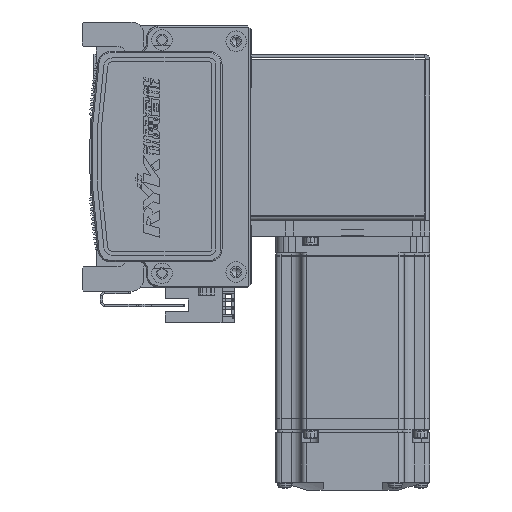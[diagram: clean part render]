
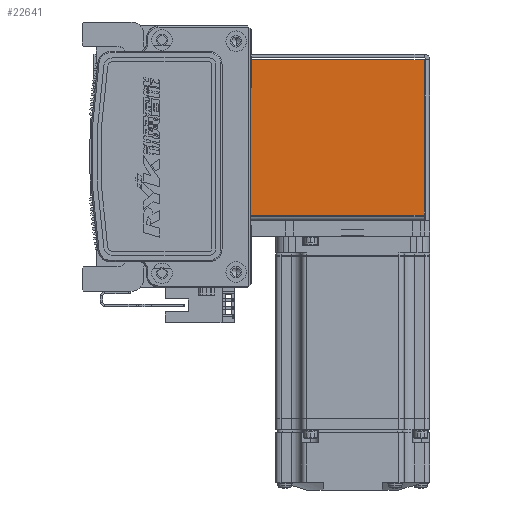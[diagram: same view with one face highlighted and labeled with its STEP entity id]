
A CAD part, left-side view. The second image highlights one B-rep face of the part: STEP entity #22641.
In plain terms, the highlighted planar face has unit normal (-1, 0, 0) as drawn and (0, 0, -1) by its records, which use the part's own axes.
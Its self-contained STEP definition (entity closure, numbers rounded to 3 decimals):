
#1448 = CARTESIAN_POINT ( 'NONE',  ( 0., 0., -35. ) ) ;
#5078 = CARTESIAN_POINT ( 'NONE',  ( 0., 72.5, -35. ) ) ;
#6920 = DIRECTION ( 'NONE',  ( 0., 0., 1. ) ) ;
#8433 = CARTESIAN_POINT ( 'NONE',  ( -30.293, 0., -35. ) ) ;
#8895 = DIRECTION ( 'NONE',  ( 1., 0., 0. ) ) ;
#9711 = DIRECTION ( 'NONE',  ( 1., 0., 0. ) ) ;
#10413 = LINE ( 'NONE', #5078, #52270 ) ;
#10444 = VECTOR ( 'NONE', #19433, 1000. ) ;
#10692 = VECTOR ( 'NONE', #38022, 1000. ) ;
#11416 = ORIENTED_EDGE ( 'NONE', *, *, #50566, .T. ) ;
#13501 = ORIENTED_EDGE ( 'NONE', *, *, #29049, .F. ) ;
#13873 = VECTOR ( 'NONE', #9711, 1000. ) ;
#16053 = CARTESIAN_POINT ( 'NONE',  ( 30.263, 72.5, -35. ) ) ;
#17488 = FACE_OUTER_BOUND ( 'NONE', #22965, .T. ) ;
#19433 = DIRECTION ( 'NONE',  ( 0., 1., 0. ) ) ;
#22641 = ADVANCED_FACE ( 'NONE', ( #17488 ), #60917, .F. ) ;
#22965 = EDGE_LOOP ( 'NONE', ( #34181, #13501, #23643, #11416 ) ) ;
#23643 = ORIENTED_EDGE ( 'NONE', *, *, #24338, .T. ) ;
#24338 = EDGE_CURVE ( 'NONE', #58252, #33881, #24977, .T. ) ;
#24977 = LINE ( 'NONE', #8433, #10444 ) ;
#28450 = LINE ( 'NONE', #47182, #13873 ) ;
#29049 = EDGE_CURVE ( 'NONE', #58252, #60646, #28450, .T. ) ;
#33881 = VERTEX_POINT ( 'NONE', #64863 ) ;
#34181 = ORIENTED_EDGE ( 'NONE', *, *, #42106, .T. ) ;
#35037 = CARTESIAN_POINT ( 'NONE',  ( 30.263, 72.5, -35. ) ) ;
#38022 = DIRECTION ( 'NONE',  ( 0., -1., 0. ) ) ;
#42106 = EDGE_CURVE ( 'NONE', #59728, #60646, #57610, .T. ) ;
#47182 = CARTESIAN_POINT ( 'NONE',  ( 32.5, 0.737, -35. ) ) ;
#49602 = CARTESIAN_POINT ( 'NONE',  ( -30.293, 0.737, -35. ) ) ;
#50566 = EDGE_CURVE ( 'NONE', #33881, #59728, #10413, .T. ) ;
#52270 = VECTOR ( 'NONE', #8895, 1000. ) ;
#53354 = CARTESIAN_POINT ( 'NONE',  ( 30.263, 0.737, -35. ) ) ;
#57610 = LINE ( 'NONE', #16053, #10692 ) ;
#58252 = VERTEX_POINT ( 'NONE', #49602 ) ;
#59728 = VERTEX_POINT ( 'NONE', #35037 ) ;
#60646 = VERTEX_POINT ( 'NONE', #53354 ) ;
#60917 = PLANE ( 'NONE',  #61199 ) ;
#61199 = AXIS2_PLACEMENT_3D ( 'NONE', #1448, #6920, #66392 ) ;
#64863 = CARTESIAN_POINT ( 'NONE',  ( -30.293, 72.5, -35. ) ) ;
#66392 = DIRECTION ( 'NONE',  ( 0., -1., 0. ) ) ;
